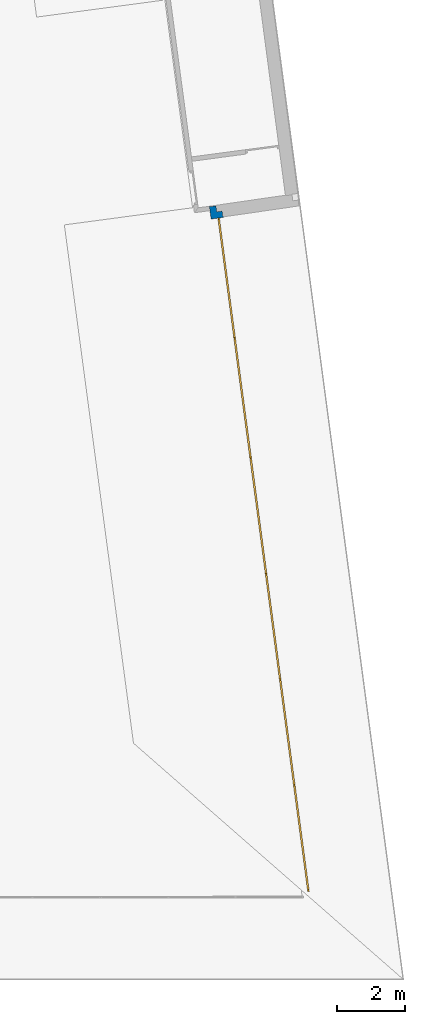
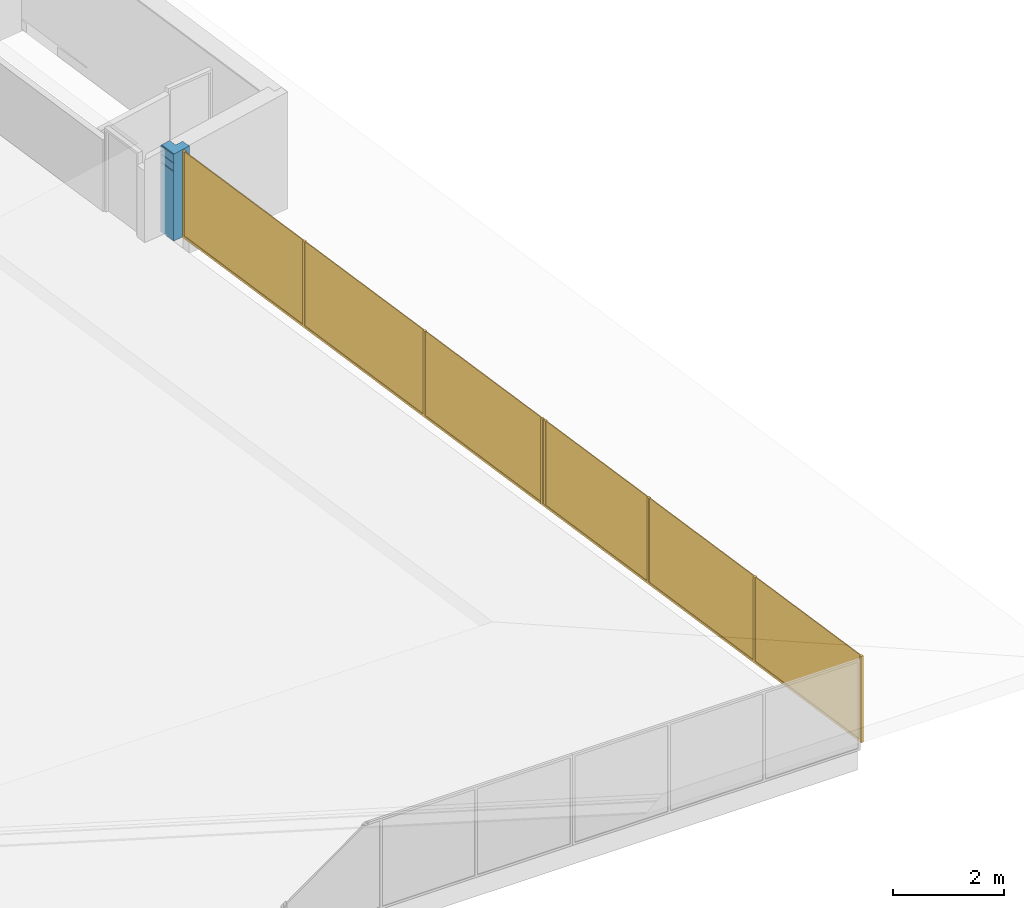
# One storey, part 6 of 7: 2 windows, 1 wall, 2 openings.
"""IFC2X3 building model written with IfcOpenShell, lengths in metres."""

from ifc_helpers import new_model, entity, si_unit, converted_unit, money_unit, direction, frame, origin_with_axes, origin_2d_with_axis, place, context, subcontext, project, spatial, polyline, rectangle, outline, extrude, boolean, open_shell, faceted_brep, surface_model, material, material_list, layer, layer_set, layer_usage, type_object, element, fill, save


model = new_model("IFC2X3")

# Units and contexts
model_context = context("Model", 3, precision=1e-05, world=origin_with_axes(), true_north=direction((0.0, 1.0)))
body_context = subcontext(model_context, "Body", "Model", "MODEL_VIEW")
ifc_project = project(units=[si_unit("LENGTHUNIT", "METRE"), si_unit("AREAUNIT", "SQUARE_METRE"), si_unit("VOLUMEUNIT", "CUBIC_METRE"), converted_unit("PLANEANGLEUNIT", "DEGREE", entity("IfcPlaneAngleMeasure", 0.0174532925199), si_unit("PLANEANGLEUNIT", "RADIAN"), dimensions=[0, 0, 0, 0, 0, 0, 0]), si_unit("SOLIDANGLEUNIT", "STERADIAN"), money_unit("EUR"), converted_unit("TIMEUNIT", "Year", entity("IfcTimeMeasure", 31556926.0), si_unit("TIMEUNIT", "SECOND"), dimensions=[0, 0, 0, 0, 0, 0, 0]), si_unit("MASSUNIT", "GRAM"), si_unit("THERMODYNAMICTEMPERATUREUNIT", "DEGREE_CELSIUS"), si_unit("LUMINOUSINTENSITYUNIT", "LUMEN")], contexts=[model_context])

# Site, building, storey
site_placement = place(None, origin_with_axes())
site = spatial("IfcSite", under=ifc_project, at=site_placement, Name="Undefined", CompositionType="ELEMENT")
building_placement = place(site_placement, origin_with_axes())
building = spatial("IfcBuilding", under=site, at=building_placement, Name="Undefined", CompositionType="ELEMENT")
storey_placement = place(building_placement, frame((0.0, 0.0, 17.4), z_axis=(0.0, 0.0, 1.0), x_axis=(1.0, 0.0, 0.0)))
storey = spatial("IfcBuildingStorey", under=building, at=storey_placement, Name="Toiture", CompositionType="ELEMENT", Elevation=17.4)

# Wall, openings, windows
ifc_material_1 = material(Name="Finition ext - Cr\x8epis")
ifc_layer_1 = layer(ifc_material_1, 0.015, ventilated="UNKNOWN")
ifc_material_2 = material(Name="Isolation - Fibres de bois")
ifc_layer_2 = layer(ifc_material_2, 0.16, ventilated="UNKNOWN")
ifc_material_3 = material(Name="Struct. - B.A. banch\x8e")
ifc_layer_3 = layer(ifc_material_3, 0.18, ventilated="UNKNOWN")
ifc_material_4 = material(Name="Finition int - Enduit pl\x89tre")
ifc_layer_4 = layer(ifc_material_4, 0.015, ventilated="UNKNOWN")
ifc_layer_set = layer_set([ifc_layer_1, ifc_layer_2, ifc_layer_3, ifc_layer_4], Name="1.2-Mur ext: rev\x8et ext + isol ext + ma\x8donnerie + enduit")
ifc_layer_usage = layer_usage(ifc_layer_set, "AXIS2", "POSITIVE", 0.0)
wall_type = type_object("IfcWallType", Name="1.2-Mur ext: rev\x8et ext + isol ext + ma\x8donnerie + enduit 370", PredefinedType="NOTDEFINED")
wall_placement = place(storey_placement, frame((68.7279075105, 0.208913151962, 0.0), z_axis=(0.0, 0.0, 1.0), x_axis=(-0.132256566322, 0.991215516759, 0.0)))
wall = element("IfcWallStandardCase", 1, at=wall_placement, inside=storey, type_object=wall_type, material=ifc_layer_usage, Name="SW - 012", ObjectType="WALL", context=body_context, shape_type="CSG", body=[
    boolean("DIFFERENCE", extrude(outline(polyline([(0.0, 0.0), (20.2050834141, 0.0), (20.2050834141, 0.37), (0.0, 0.37), (0.0, 0.0)])), origin_with_axes(), (0.0, 0.0, 1.0), 3.302), faceted_brep([(0.0, 0.175, 1.92737289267), (0.0, 0.015, 1.94137107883), (0.0, 0.0, 1.94268340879), (0.0, 0.0, 3.302), (0.0, 0.37, 3.302), (0.0, 0.37, 1.89525530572), (0.0, 0.355, 1.89656763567), (0.0, 0.355, 1.91162493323), (20.0080890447, 0.175, 1.92737258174), (20.0099010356, 0.015, 1.94137076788), (19.8498907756, 0.015, 1.94137077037), (19.8500606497, 0.0, 1.94268310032), (19.8500606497, 0.0, 0.0), (20.2050834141, 0.0, 0.0), (20.2050834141, 0.0, 3.302), (20.2050834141, 0.37, 3.302), (20.2008931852, 0.37, 1.8952549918), (20.2050834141, 0.37, 0.0), (20.2008931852, 0.37, 0.0), (20.2008931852, 0.37, 1.525), (0.00797378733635, 0.37, 1.52499999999), (0.00797378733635, 0.37, 0.0), (0.0, 0.37, 0.0), (0.0, 0.37, 1.72499999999), (20.2008931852, 0.37, 1.725), (18.5947598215, 0.37, 1.71446869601), (16.87320315, 0.37, 1.71298528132), (15.1836435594, 0.37, 1.7045), (15.1836437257, 0.37, 1.5455), (16.8732036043, 0.37, 1.53701471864), (18.5947598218, 0.37, 1.53553130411), (18.5983727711, 0.37, 1.53701471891), (18.6019185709, 0.37, 1.5455), (18.6019185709, 0.37, 1.7045), (18.5983727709, 0.37, 1.71298528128), (18.6146744, 0.37, 1.71444716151), (18.6111138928, 0.37, 1.71298528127), (18.6075680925, 0.37, 1.7045), (18.6075680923, 0.37, 1.5455), (18.6111138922, 0.37, 1.53701471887), (18.6146744, 0.37, 1.53555283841), (19.1832630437, 0.37, 1.53701470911), (19.7495027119, 0.37, 1.5455), (19.7495026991, 0.37, 1.7045), (19.1832629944, 0.37, 1.71298528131), (20.2010630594, 0.355, 1.89656732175), (20.1860620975, 0.355, 1.89656732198), (20.1860620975, 0.355, 1.91162461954), (20.1881005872, 0.175, 1.92737257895), (20.0080890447, 0.175, 0.0), (20.0099010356, 0.015, 0.0), (19.8498907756, 0.015, 0.0), (20.2010630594, 0.355, 0.0), (20.1881005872, 0.175, 0.0), (20.1860620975, 0.355, 0.0), (20.2010630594, 0.355, 1.525), (20.1860620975, 0.355, 1.525), (0.0234935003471, 0.355, 1.52499999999), (0.0216168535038, 0.357454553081, 1.52499999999), (0.0216168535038, 0.357454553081, 0.0), (0.0234935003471, 0.355, 0.0), (0.0, 0.355, 0.0), (0.0, 0.355, 1.72499999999), (20.1860620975, 0.355, 1.725), (20.2010630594, 0.355, 1.725), (18.5978945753, 0.366412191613, 1.71298528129), (18.6009710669, 0.362891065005, 1.7045), (18.600971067, 0.362891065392, 1.5455), (18.5978945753, 0.366412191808, 1.53701471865), (18.6106401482, 0.366445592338, 1.71298528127), (18.6066225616, 0.362905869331, 1.7045), (18.6066225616, 0.362905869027, 1.5455), (18.6106401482, 0.366445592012, 1.53701471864), (20.1860620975, 0.355, 1.71650001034), (20.1860620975, 0.355, 1.53349998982), (20.1684406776, 0.355, 1.53349997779), (18.8013992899, 0.355, 1.53701470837), (18.607902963, 0.355, 1.53991432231), (18.6055688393, 0.355, 1.5455), (18.6055688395, 0.355, 1.7045), (18.6079029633, 0.355, 1.71008567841), (18.8013993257, 0.355, 1.71298529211), (20.1684406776, 0.355, 1.71650002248), (4.53063710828, 0.355, 1.70449999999), (4.53418297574, 0.355, 1.71298528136), (4.54274345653, 0.355, 1.7165), (9.20409109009, 0.355, 1.71649999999), (9.21265157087, 0.355, 1.71298528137), (9.2161974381, 0.355, 1.70449999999), (9.2161974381, 0.355, 1.54549999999), (9.21265157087, 0.355, 1.53701471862), (9.20409109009, 0.355, 1.53349999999), (4.54274345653, 0.355, 1.53349999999), (4.53418297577, 0.355, 1.53701471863), (4.53063710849, 0.355, 1.54549999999), (9.22184706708, 0.355, 1.70449999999), (9.22539293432, 0.355, 1.71298528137), (9.23395341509, 0.355, 1.71649999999), (13.8953009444, 0.355, 1.7165), (13.9038614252, 0.355, 1.71298528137), (13.9074072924, 0.355, 1.7045), (13.9074072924, 0.355, 1.5455), (13.9038614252, 0.355, 1.53701471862), (13.8953009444, 0.355, 1.5335), (9.23395341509, 0.355, 1.53349999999), (9.22539293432, 0.355, 1.53701471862), (9.22184706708, 0.355, 1.54549999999), (13.9130569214, 0.355, 1.7045), (13.9166027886, 0.355, 1.71298528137), (13.9251632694, 0.355, 1.7165), (18.0127404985, 0.355, 1.71298528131), (18.5976009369, 0.355, 1.71004800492), (18.5999193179, 0.355, 1.7045), (18.5999193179, 0.355, 1.5455), (18.5976009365, 0.355, 1.53995199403), (18.0127408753, 0.355, 1.53701471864), (13.9251632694, 0.355, 1.5335), (13.9166027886, 0.355, 1.53701471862), (13.9130569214, 0.355, 1.5455), (0.0234935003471, 0.355, 1.71649999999), (4.51288113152, 0.355, 1.71649999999), (4.52144161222, 0.355, 1.71298528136), (4.52498747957, 0.355, 1.70449999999), (4.52498747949, 0.355, 1.54549999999), (4.52144161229, 0.355, 1.53701471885), (4.51288113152, 0.355, 1.53349999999), (0.0234935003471, 0.355, 1.53349999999), (20.2010630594, 0.355, 1.71649999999), (20.2010630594, 0.355, 1.53350000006), (20.2010607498, 0.355203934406, 1.53350000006), (20.2009646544, 0.363689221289, 1.53701472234), (20.2009248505, 0.367203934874, 1.5455), (18.6058755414, 0.357301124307, 1.5455), (18.6058755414, 0.357301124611, 1.7045), (20.2009248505, 0.36720393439, 1.7045), (20.2009646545, 0.363689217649, 1.7129852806), (20.2010607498, 0.355203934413, 1.7165), (4.53224516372, 0.36705179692, 1.70449999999), (4.53532206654, 0.363537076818, 1.71298528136), (4.54275036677, 0.355051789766, 1.71649999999), (4.57826231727, 0.355051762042, 1.71649999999), (9.16858557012, 0.355048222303, 1.71649999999), (9.20409752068, 0.355048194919, 1.71649999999), (9.21379018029, 0.363533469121, 1.71298528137), (9.21780501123, 0.367048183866, 1.70449999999), (9.21780501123, 0.367048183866, 1.54549999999), (9.21379018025, 0.363533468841, 1.53701471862), (9.20409752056, 0.355048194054, 1.53349999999), (9.16858557, 0.355048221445, 1.53349999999), (4.57826231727, 0.355051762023, 1.53349999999), (4.54275036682, 0.355051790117, 1.53349999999), (4.53532206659, 0.363537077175, 1.53701471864), (4.53224516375, 0.367051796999, 1.54549999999), (9.22345468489, 0.367048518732, 1.70449999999), (9.22653158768, 0.363533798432, 1.71298528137), (9.2339598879, 0.355048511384, 1.71649999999), (9.26947183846, 0.355048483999, 1.71649999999), (13.8597949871, 0.35504494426, 1.7165), (13.8953069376, 0.355044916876, 1.7165), (13.9049995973, 0.363530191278, 1.71298528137), (13.9090144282, 0.367044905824, 1.7045), (13.9090144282, 0.367044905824, 1.5455), (13.9049995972, 0.363530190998, 1.53701471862), (13.8953069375, 0.355044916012, 1.5335), (13.8597949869, 0.355044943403, 1.5335), (9.26947183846, 0.35504848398, 1.53349999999), (9.2339598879, 0.355048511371, 1.53349999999), (9.22653158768, 0.363533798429, 1.53701471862), (9.22345468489, 0.367048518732, 1.54549999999), (13.9146633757, 0.367039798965, 1.7045), (13.9177394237, 0.363518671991, 1.71298528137), (13.9251656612, 0.3550179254, 1.7165), (18.6002248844, 0.357292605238, 1.7045), (18.6002248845, 0.357292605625, 1.5455), (13.9146633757, 0.367039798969, 1.5455), (13.9177394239, 0.363518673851, 1.53701471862), (13.9251656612, 0.355017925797, 1.5335), (0.0234516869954, 0.355054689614, 1.71649999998), (4.47737631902, 0.355053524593, 1.71649999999), (4.51288827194, 0.355053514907, 1.71649999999), (4.52258093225, 0.363538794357, 1.71298528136), (4.52659576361, 0.367053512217, 1.70449999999), (4.52659576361, 0.367053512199, 1.54549999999), (4.52258093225, 0.363538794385, 1.53701471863), (4.51288827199, 0.355053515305, 1.53349999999), (4.47737631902, 0.355053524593, 1.53349999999), (0.0234516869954, 0.355054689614, 1.53350000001), (0.0216168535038, 0.357454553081, 1.53449405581), (0.0216168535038, 0.357454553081, 1.71550594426), (0.0149990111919, 0.363539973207, 1.71298528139), (0.0111767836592, 0.367054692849, 1.70449999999), (0.0111767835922, 0.36705469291, 1.54549999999), (0.0149990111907, 0.363539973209, 1.53701471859)], [[[0, 1, 2, 3, 4, 5, 6, 7]], [[1, 0, 8, 9, 10]], [[11, 2, 1, 10]], [[11, 12, 13, 14, 3, 2]], [[3, 14, 15, 4]], [[16, 5, 4, 15, 17, 18, 19, 20, 21, 22, 23, 24], [25, 26, 27, 28, 29, 30, 31, 32, 33, 34], [35, 36, 37, 38, 39, 40, 41, 42, 43, 44]], [[6, 5, 16, 45, 46]], [[7, 6, 46, 47]], [[0, 7, 47, 48, 8]], [[49, 50, 9, 8]], [[50, 51, 10, 9]], [[12, 11, 10, 51]], [[52, 18, 17, 13, 12, 51, 50, 49, 53, 54]], [[13, 17, 15, 14]], [[18, 52, 55, 19]], [[20, 19, 55, 56, 57, 58]], [[59, 21, 20, 58]], [[60, 61, 22, 21, 59]], [[62, 23, 22, 61]], [[23, 62, 63, 64, 24]], [[16, 24, 64, 45]], [[26, 25, 65]], [[27, 26, 65, 66]], [[28, 27, 66, 67]], [[29, 28, 67, 68]], [[30, 29, 68]], [[31, 30, 68]], [[32, 31, 68, 67]], [[33, 32, 67, 66]], [[34, 33, 66, 65]], [[25, 34, 65]], [[36, 35, 69]], [[37, 36, 69, 70]], [[38, 37, 70, 71]], [[39, 38, 71, 72]], [[40, 39, 72]], [[41, 40, 72]], [[42, 41, 72, 71]], [[43, 42, 71, 70]], [[44, 43, 70, 69]], [[35, 44, 69]], [[63, 46, 45, 64]], [[54, 53, 48, 47, 46, 63, 73, 74, 56]], [[53, 49, 8, 48]], [[52, 54, 56, 55]], [[62, 61, 60, 57, 56, 74, 75, 76, 77, 78, 79, 80, 81, 82, 73, 63], [83, 84, 85, 86, 87, 88, 89, 90, 91, 92, 93, 94], [95, 96, 97, 98, 99, 100, 101, 102, 103, 104, 105, 106], [107, 108, 109, 110, 111, 112, 113, 114, 115, 116, 117, 118], [119, 120, 121, 122, 123, 124, 125, 126]], [[60, 59, 58, 57]], [[74, 73, 127, 128]], [[75, 74, 128, 129]], [[76, 75, 129, 130]], [[77, 76, 130, 131, 132]], [[78, 77, 132]], [[79, 78, 132, 133]], [[80, 79, 133]], [[81, 80, 133, 134, 135]], [[82, 81, 135, 136]], [[73, 82, 136, 127]], [[84, 83, 137, 138]], [[85, 84, 138, 139]], [[86, 85, 139, 140, 141, 142]], [[87, 86, 142, 143]], [[88, 87, 143, 144]], [[89, 88, 144, 145]], [[90, 89, 145, 146]], [[91, 90, 146, 147]], [[92, 91, 147, 148, 149, 150]], [[93, 92, 150, 151]], [[94, 93, 151, 152]], [[83, 94, 152, 137]], [[96, 95, 153, 154]], [[97, 96, 154, 155]], [[98, 97, 155, 156, 157, 158]], [[99, 98, 158, 159]], [[100, 99, 159, 160]], [[101, 100, 160, 161]], [[102, 101, 161, 162]], [[103, 102, 162, 163]], [[104, 103, 163, 164, 165, 166]], [[105, 104, 166, 167]], [[106, 105, 167, 168]], [[95, 106, 168, 153]], [[108, 107, 169, 170]], [[109, 108, 170, 171]], [[110, 109, 171, 170]], [[111, 110, 170, 169, 172]], [[112, 111, 172]], [[113, 112, 172, 173]], [[114, 113, 173]], [[115, 114, 173, 174, 175]], [[116, 115, 175, 176]], [[117, 116, 176, 175]], [[118, 117, 175, 174]], [[107, 118, 174, 169]], [[120, 119, 177, 178, 179]], [[121, 120, 179, 180]], [[122, 121, 180, 181]], [[123, 122, 181, 182]], [[124, 123, 182, 183]], [[125, 124, 183, 184]], [[126, 125, 184, 185, 186]], [[119, 126, 186, 187, 188, 177]], [[134, 131, 130, 129, 128, 127, 136, 135]], [[131, 134, 133, 132]], [[143, 138, 137, 144]], [[138, 143, 142, 141, 140, 139]], [[137, 152, 145, 144]], [[151, 146, 145, 152]], [[148, 147, 146, 151, 150, 149]], [[153, 160, 159, 154]], [[159, 158, 157, 156, 155, 154]], [[161, 160, 153, 168]], [[167, 162, 161, 168]], [[163, 162, 167, 166, 165, 164]], [[169, 174, 173, 172]], [[177, 188, 189, 180, 179, 178]], [[189, 190, 181, 180]], [[190, 191, 182, 181]], [[191, 192, 183, 182]], [[192, 187, 186, 185, 184, 183]], [[189, 188, 187, 192, 191, 190]]])),
])
opening_1_placement = place(wall_placement, frame((4.48755929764, 0.0, 0.0), z_axis=(0.0, 0.0, 1.0), x_axis=(1.0, 0.0, 0.0)))
opening_1 = element("IfcOpeningElement", 2, at=opening_1_placement, cuts=wall, Name="WD - 001", context=body_context, shape_type="SweptSolid", body=[
    extrude(rectangle(XDim=9.47793108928, YDim=2.0, at=origin_2d_with_axis()), frame((0.0, 0.74, 1.0), z_axis=(0.0, -1.0, 0.0), x_axis=(1.0, 0.0, 0.0)), (0.0, 0.0, 1.0), 0.62),
    extrude(rectangle(XDim=9.47793108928, YDim=2.0, at=origin_2d_with_axis()), frame((0.0, -0.37, 1.0), z_axis=(0.0, 1.0, 0.0), x_axis=(1.0, 0.0, 0.0)), (0.0, 0.0, 1.0), 0.49),
])
opening_2_placement = place(wall_placement, frame((14.4537893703, 0.0, 0.0), z_axis=(0.0, 0.0, 1.0), x_axis=(1.0, 0.0, 0.0)))
opening_2 = element("IfcOpeningElement", 3, at=opening_2_placement, cuts=wall, Name="WD - 002", context=body_context, shape_type="SweptSolid", body=[
    extrude(rectangle(XDim=10.7308511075, YDim=2.0, at=origin_2d_with_axis()), frame((0.0, 0.74, 1.0), z_axis=(0.0, 1.0, 0.0), x_axis=(-1.0, 0.0, 0.0)), (0.0, 0.0, -1.0), 0.62),
    extrude(rectangle(XDim=10.7308511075, YDim=2.0, at=origin_2d_with_axis()), frame((0.0, -0.37, 1.0), z_axis=(0.0, -1.0, 0.0), x_axis=(-1.0, 0.0, 0.0)), (0.0, 0.0, -1.0), 0.49),
])
ifc_material_5 = material(Name="Background")
ifc_material_6 = material(Name="Air Space")
ifc_material_7 = material(Name="Rigid Insulation")
ifc_material_list = material_list([ifc_material_5, ifc_material_6, ifc_material_5, ifc_material_5, ifc_material_5, ifc_material_7, ifc_material_5, ifc_material_5, ifc_material_5, ifc_material_5, ifc_material_6, ifc_material_5, ifc_material_5])
window_style_1 = type_object("IfcWindowStyle", Name="Fen\x90tre horizontale \x88 ch\x89ssis multiples 18", ConstructionType="NOTDEFINED", OperationType="TRIPLE_PANEL_VERTICAL", ParameterTakesPrecedence=False, Sizeable=False)
window_1_placement = place(opening_1_placement, frame((-4.73896554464, 0.0, 0.0), z_axis=(0.0, 0.0, 1.0), x_axis=(1.0, 0.0, 0.0)))
window_1 = element("IfcWindow", 4, at=window_1_placement, inside=storey, type_object=window_style_1, material=ifc_material_list, Name="WD - 001", OverallHeight=2.0, OverallWidth=9.47793, context=body_context, shape_type="SurfaceModel", body=[
    faceted_brep([(0.05, 0.12, 1.90207017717), (0.0, 0.12, 1.90207017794), (0.0, 0.12, 0.0), (0.05, 0.12, 0.05), (0.05, 0.17, 1.89769574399), (0.0, 0.17, 1.89769574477), (0.0, 0.17, 0.0), (0.05, 0.17, 0.05)], [[[0, 1, 2, 3]], [[1, 0, 4, 5]], [[1, 5, 6, 2]], [[2, 6, 7, 3]], [[4, 0, 3, 7]], [[5, 4, 7, 6]]]),
    faceted_brep([(3.16764369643, 0.12, 1.90207012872), (3.14264369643, 0.12, 1.90207012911), (3.14264369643, 0.12, 0.05), (3.16764369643, 0.12, 0.0), (3.16764369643, 0.17, 1.89769569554), (3.14264369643, 0.17, 1.89769569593), (3.14264369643, 0.17, 0.05), (3.16764369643, 0.17, 0.0)], [[[0, 1, 2, 3]], [[1, 0, 4, 5]], [[1, 5, 6, 2]], [[2, 6, 7, 3]], [[4, 0, 3, 7]], [[5, 4, 7, 6]]]),
    faceted_brep([(0.05, 0.12, 0.05), (0.05, 0.17, 0.05), (0.0, 0.17, 0.0), (0.0, 0.12, 0.0), (3.14264369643, 0.12, 0.05), (3.14264369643, 0.17, 0.05), (3.16764369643, 0.17, 0.0), (3.16764369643, 0.12, 0.0)], [[[0, 1, 2, 3]], [[4, 5, 1, 0]], [[1, 5, 6, 2]], [[3, 2, 6, 7]], [[0, 3, 7, 4]], [[7, 6, 5, 4]]]),
    faceted_brep([(3.19264369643, 0.12, 1.90207012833), (3.16764369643, 0.12, 1.90207012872), (3.16764369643, 0.12, 0.0), (3.19264369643, 0.12, 0.05), (3.19264369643, 0.17, 1.89769569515), (3.16764369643, 0.17, 1.89769569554), (3.16764369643, 0.17, 0.0), (3.19264369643, 0.17, 0.05)], [[[0, 1, 2, 3]], [[1, 0, 4, 5]], [[1, 5, 6, 2]], [[2, 6, 7, 3]], [[4, 0, 3, 7]], [[5, 4, 7, 6]]]),
    faceted_brep([(6.31028739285, 0.12, 1.90207007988), (6.28528739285, 0.12, 1.90207008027), (6.28528739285, 0.12, 0.05), (6.31028739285, 0.12, 0.0), (6.31028739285, 0.17, 1.89769564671), (6.28528739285, 0.17, 1.89769564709), (6.28528739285, 0.17, 0.05), (6.31028739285, 0.17, 0.0)], [[[0, 1, 2, 3]], [[1, 0, 4, 5]], [[1, 5, 6, 2]], [[2, 6, 7, 3]], [[4, 0, 3, 7]], [[5, 4, 7, 6]]]),
    faceted_brep([(3.19264369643, 0.12, 0.05), (3.19264369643, 0.17, 0.05), (3.16764369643, 0.17, 0.0), (3.16764369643, 0.12, 0.0), (6.28528739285, 0.12, 0.05), (6.28528739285, 0.17, 0.05), (6.31028739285, 0.17, 0.0), (6.31028739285, 0.12, 0.0)], [[[0, 1, 2, 3]], [[4, 5, 1, 0]], [[1, 5, 6, 2]], [[3, 2, 6, 7]], [[0, 3, 7, 4]], [[7, 6, 5, 4]]]),
    faceted_brep([(6.33528739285, 0.12, 1.90207007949), (6.31028739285, 0.12, 1.90207007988), (6.31028739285, 0.12, 0.0), (6.33528739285, 0.12, 0.05), (6.33528739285, 0.17, 1.89769564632), (6.31028739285, 0.17, 1.89769564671), (6.31028739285, 0.17, 0.0), (6.33528739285, 0.17, 0.05)], [[[0, 1, 2, 3]], [[1, 0, 4, 5]], [[1, 5, 6, 2]], [[2, 6, 7, 3]], [[4, 0, 3, 7]], [[5, 4, 7, 6]]]),
    faceted_brep([(9.47793108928, 0.12, 1.90207003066), (9.42793108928, 0.12, 1.90207003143), (9.42793108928, 0.12, 0.05), (9.47793108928, 0.12, 0.0), (9.47793108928, 0.17, 1.89769559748), (9.42793108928, 0.17, 1.89769559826), (9.42793108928, 0.17, 0.05), (9.47793108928, 0.17, 0.0)], [[[0, 1, 2, 3]], [[1, 0, 4, 5]], [[1, 5, 6, 2]], [[2, 6, 7, 3]], [[4, 0, 3, 7]], [[5, 4, 7, 6]]]),
    faceted_brep([(6.33528739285, 0.12, 0.05), (6.33528739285, 0.17, 0.05), (6.31028739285, 0.17, 0.0), (6.31028739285, 0.12, 0.0), (9.42793108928, 0.12, 0.05), (9.42793108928, 0.17, 0.05), (9.47793108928, 0.17, 0.0), (9.47793108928, 0.12, 0.0)], [[[0, 1, 2, 3]], [[4, 5, 1, 0]], [[1, 5, 6, 2]], [[3, 2, 6, 7]], [[0, 3, 7, 4]], [[7, 6, 5, 4]]]),
    surface_model("IfcShellBasedSurfaceModel", [(3.14264369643, 0.155, 1.89900802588), (3.14264369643, 0.135, 1.90075779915), (3.14264369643, 0.135, 0.05), (3.14264369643, 0.155, 0.05), (0.05, 0.135, 1.90075784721), (0.05, 0.135, 0.05), (0.05, 0.155, 0.05), (0.05, 0.155, 1.89900807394)], [open_shell([[[0, 1, 2, 3]], [[2, 1, 4, 5]], [[6, 3, 2, 5]], [[7, 0, 3, 6]], [[5, 4, 7, 6]]])]),
    surface_model("IfcShellBasedSurfaceModel", [(6.28528739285, 0.155, 1.89900797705), (6.28528739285, 0.135, 1.90075775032), (6.28528739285, 0.135, 0.05), (6.28528739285, 0.155, 0.05), (3.19264369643, 0.135, 1.90075779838), (3.19264369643, 0.135, 0.05), (3.19264369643, 0.155, 0.05), (3.19264369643, 0.155, 1.89900802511)], [open_shell([[[0, 1, 2, 3]], [[2, 1, 4, 5]], [[6, 3, 2, 5]], [[7, 0, 3, 6]], [[5, 4, 7, 6]]])]),
    surface_model("IfcShellBasedSurfaceModel", [(9.42793108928, 0.155, 1.89900792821), (9.42793108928, 0.135, 1.90075770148), (9.42793108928, 0.135, 0.05), (9.42793108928, 0.155, 0.05), (6.33528739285, 0.135, 1.90075774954), (6.33528739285, 0.135, 0.05), (6.33528739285, 0.155, 0.05), (6.33528739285, 0.155, 1.89900797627)], [open_shell([[[0, 1, 2, 3]], [[2, 1, 4, 5]], [[6, 3, 2, 5]], [[7, 0, 3, 6]], [[5, 4, 7, 6]]])]),
])
fill(opening_1, window_1)
window_style_2 = type_object("IfcWindowStyle", Name="Fen\x90tre horizontale \x88 ch\x89ssis multiples 18", ConstructionType="NOTDEFINED", OperationType="TRIPLE_PANEL_VERTICAL", ParameterTakesPrecedence=False, Sizeable=False)
window_2_placement = place(opening_2_placement, frame((-5.36542555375, 0.0, 0.0), z_axis=(0.0, 0.0, 1.0), x_axis=(1.0, 0.0, 0.0)))
window_2 = element("IfcWindow", 5, at=window_2_placement, inside=storey, type_object=window_style_2, material=ifc_material_list, Name="WD - 002", OverallHeight=2.0, OverallWidth=10.7309, context=body_context, shape_type="SurfaceModel", body=[
    faceted_brep([(10.7308511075, 0.12, 1.90206986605), (10.6808511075, 0.12, 1.90206986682), (10.6808511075, 0.12, 0.05), (10.7308511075, 0.12, 0.0), (10.7308511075, 0.17, 1.89769543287), (10.6808511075, 0.17, 1.89769543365), (10.6808511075, 0.17, 0.05), (10.7308511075, 0.17, 0.0)], [[[0, 1, 2, 3]], [[1, 0, 4, 5]], [[1, 5, 6, 2]], [[3, 2, 6, 7]], [[4, 0, 3, 7]], [[5, 4, 7, 6]]]),
    faceted_brep([(7.170567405, 0.12, 1.90206992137), (7.145567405, 0.12, 1.90206992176), (7.145567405, 0.12, 0.0), (7.170567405, 0.12, 0.05), (7.170567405, 0.17, 1.8976954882), (7.145567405, 0.17, 1.89769548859), (7.145567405, 0.17, 0.0), (7.170567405, 0.17, 0.05)], [[[0, 1, 2, 3]], [[1, 0, 4, 5]], [[1, 5, 6, 2]], [[3, 2, 6, 7]], [[4, 0, 3, 7]], [[5, 4, 7, 6]]]),
    faceted_brep([(10.6808511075, 0.12, 0.05), (10.7308511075, 0.12, 0.0), (10.7308511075, 0.17, 0.0), (10.6808511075, 0.17, 0.05), (7.170567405, 0.12, 0.05), (7.145567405, 0.12, 0.0), (7.145567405, 0.17, 0.0), (7.170567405, 0.17, 0.05)], [[[0, 1, 2, 3]], [[0, 4, 5, 1]], [[1, 5, 6, 2]], [[3, 2, 6, 7]], [[4, 0, 3, 7]], [[5, 4, 7, 6]]]),
    faceted_brep([(7.145567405, 0.12, 1.90206992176), (7.120567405, 0.12, 1.90206992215), (7.120567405, 0.12, 0.05), (7.145567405, 0.12, 0.0), (7.145567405, 0.17, 1.89769548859), (7.120567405, 0.17, 1.89769548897), (7.120567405, 0.17, 0.05), (7.145567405, 0.17, 0.0)], [[[0, 1, 2, 3]], [[1, 0, 4, 5]], [[1, 5, 6, 2]], [[3, 2, 6, 7]], [[4, 0, 3, 7]], [[5, 4, 7, 6]]]),
    faceted_brep([(3.6102837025, 0.12, 1.9020699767), (3.5852837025, 0.12, 1.90206997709), (3.5852837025, 0.12, 0.0), (3.6102837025, 0.12, 0.05), (3.6102837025, 0.17, 1.89769554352), (3.5852837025, 0.17, 1.89769554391), (3.5852837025, 0.17, 0.0), (3.6102837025, 0.17, 0.05)], [[[0, 1, 2, 3]], [[1, 0, 4, 5]], [[1, 5, 6, 2]], [[3, 2, 6, 7]], [[4, 0, 3, 7]], [[5, 4, 7, 6]]]),
    faceted_brep([(7.120567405, 0.12, 0.05), (7.145567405, 0.12, 0.0), (7.145567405, 0.17, 0.0), (7.120567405, 0.17, 0.05), (3.6102837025, 0.12, 0.05), (3.5852837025, 0.12, 0.0), (3.5852837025, 0.17, 0.0), (3.6102837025, 0.17, 0.05)], [[[0, 1, 2, 3]], [[0, 4, 5, 1]], [[1, 5, 6, 2]], [[3, 2, 6, 7]], [[4, 0, 3, 7]], [[5, 4, 7, 6]]]),
    faceted_brep([(3.5852837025, 0.12, 1.90206997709), (3.5602837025, 0.12, 1.90206997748), (3.5602837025, 0.12, 0.05), (3.5852837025, 0.12, 0.0), (3.5852837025, 0.17, 1.89769554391), (3.5602837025, 0.17, 1.8976955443), (3.5602837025, 0.17, 0.05), (3.5852837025, 0.17, 0.0)], [[[0, 1, 2, 3]], [[1, 0, 4, 5]], [[1, 5, 6, 2]], [[3, 2, 6, 7]], [[4, 0, 3, 7]], [[5, 4, 7, 6]]]),
    faceted_brep([(0.05, 0.12, 1.90207003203), (0.0, 0.12, 1.9020700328), (0.0, 0.12, 0.0), (0.05, 0.12, 0.05), (0.05, 0.17, 1.89769559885), (0.0, 0.17, 1.89769559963), (0.0, 0.17, 0.0), (0.05, 0.17, 0.05)], [[[0, 1, 2, 3]], [[1, 0, 4, 5]], [[1, 5, 6, 2]], [[3, 2, 6, 7]], [[4, 0, 3, 7]], [[5, 4, 7, 6]]]),
    faceted_brep([(3.5602837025, 0.12, 0.05), (3.5852837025, 0.12, 0.0), (3.5852837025, 0.17, 0.0), (3.5602837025, 0.17, 0.05), (0.05, 0.12, 0.05), (0.0, 0.12, 0.0), (0.0, 0.17, 0.0), (0.05, 0.17, 0.05)], [[[0, 1, 2, 3]], [[0, 4, 5, 1]], [[1, 5, 6, 2]], [[3, 2, 6, 7]], [[4, 0, 3, 7]], [[5, 4, 7, 6]]]),
    surface_model("IfcShellBasedSurfaceModel", [(7.170567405, 0.135, 1.90075759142), (7.170567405, 0.155, 1.89900781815), (7.170567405, 0.155, 0.05), (7.170567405, 0.135, 0.05), (10.6808511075, 0.155, 1.8990077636), (10.6808511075, 0.155, 0.05), (10.6808511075, 0.135, 0.05), (10.6808511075, 0.135, 1.90075753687)], [open_shell([[[0, 1, 2, 3]], [[2, 1, 4, 5]], [[3, 2, 5, 6]], [[7, 0, 3, 6]], [[4, 7, 6, 5]]])]),
    surface_model("IfcShellBasedSurfaceModel", [(3.6102837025, 0.135, 1.90075764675), (3.6102837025, 0.155, 1.89900787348), (3.6102837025, 0.155, 0.05), (3.6102837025, 0.135, 0.05), (7.120567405, 0.155, 1.89900781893), (7.120567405, 0.155, 0.05), (7.120567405, 0.135, 0.05), (7.120567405, 0.135, 1.9007575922)], [open_shell([[[0, 1, 2, 3]], [[2, 1, 4, 5]], [[3, 2, 5, 6]], [[7, 0, 3, 6]], [[4, 7, 6, 5]]])]),
    surface_model("IfcShellBasedSurfaceModel", [(0.05, 0.135, 1.90075770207), (0.05, 0.155, 1.8990079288), (0.05, 0.155, 0.05), (0.05, 0.135, 0.05), (3.5602837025, 0.155, 1.89900787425), (3.5602837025, 0.155, 0.05), (3.5602837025, 0.135, 0.05), (3.5602837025, 0.135, 1.90075764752)], [open_shell([[[0, 1, 2, 3]], [[2, 1, 4, 5]], [[3, 2, 5, 6]], [[7, 0, 3, 6]], [[4, 7, 6, 5]]])]),
])
fill(opening_2, window_2)

save(model, "model.ifc")
